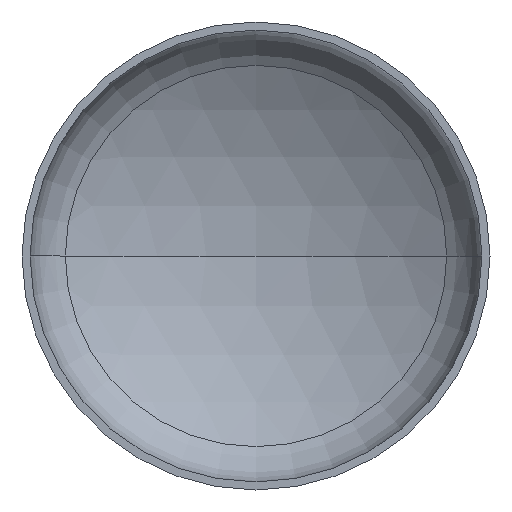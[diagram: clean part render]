
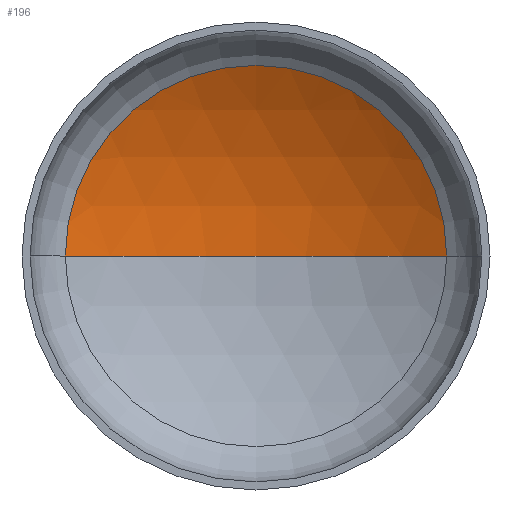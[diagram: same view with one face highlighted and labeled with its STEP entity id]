
A CAD part, front view. The second image highlights one B-rep face of the part: STEP entity #196.
In plain terms, the highlighted spherical face has radius 2400 mm.
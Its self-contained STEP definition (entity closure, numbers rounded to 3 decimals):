
#15 = EDGE_LOOP ( 'NONE', ( #30, #115, #121 ) ) ;
#20 = AXIS2_PLACEMENT_3D ( 'NONE', #171, #175, #304 ) ;
#24 = AXIS2_PLACEMENT_3D ( 'NONE', #176, #346, #198 ) ;
#30 = ORIENTED_EDGE ( 'NONE', *, *, #385, .F. ) ;
#54 = VERTEX_POINT ( 'NONE', #249 ) ;
#55 = AXIS2_PLACEMENT_3D ( 'NONE', #212, #194, #265 ) ;
#63 = VERTEX_POINT ( 'NONE', #281 ) ;
#115 = ORIENTED_EDGE ( 'NONE', *, *, #345, .T. ) ;
#116 = VERTEX_POINT ( 'NONE', #308 ) ;
#121 = ORIENTED_EDGE ( 'NONE', *, *, #341, .T. ) ;
#145 = SPHERICAL_SURFACE ( 'NONE', #55, 2400. ) ;
#171 = CARTESIAN_POINT ( 'NONE',  ( 0., -1549.568, 0. ) ) ;
#175 = DIRECTION ( 'NONE',  ( 0., 0., -1. ) ) ;
#176 = CARTESIAN_POINT ( 'NONE',  ( 0., 515.877, 0. ) ) ;
#177 = CIRCLE ( 'NONE', #20, 2400. ) ;
#194 = DIRECTION ( 'NONE',  ( 0., 0., -1. ) ) ;
#196 = ADVANCED_FACE ( 'NONE', ( #264 ), #145, .F. ) ;
#198 = DIRECTION ( 'NONE',  ( 1., 0., 0. ) ) ;
#212 = CARTESIAN_POINT ( 'NONE',  ( 0., -1549.568, 0. ) ) ;
#231 = DIRECTION ( 'NONE',  ( 1., 0., 0. ) ) ;
#244 = CIRCLE ( 'NONE', #24, 1222.268 ) ;
#249 = CARTESIAN_POINT ( 'NONE',  ( 0., 850.432, 0. ) ) ;
#263 = AXIS2_PLACEMENT_3D ( 'NONE', #272, #375, #231 ) ;
#264 = FACE_OUTER_BOUND ( 'NONE', #15, .T. ) ;
#265 = DIRECTION ( 'NONE',  ( -1., 0., 0. ) ) ;
#272 = CARTESIAN_POINT ( 'NONE',  ( 0., -1549.568, 0. ) ) ;
#281 = CARTESIAN_POINT ( 'NONE',  ( -1222.268, 515.877, 0. ) ) ;
#304 = DIRECTION ( 'NONE',  ( -1., 0., 0. ) ) ;
#308 = CARTESIAN_POINT ( 'NONE',  ( 1222.268, 515.877, 0. ) ) ;
#341 = EDGE_CURVE ( 'NONE', #116, #63, #244, .T. ) ;
#345 = EDGE_CURVE ( 'NONE', #54, #116, #177, .T. ) ;
#346 = DIRECTION ( 'NONE',  ( 0., -1., 0. ) ) ;
#375 = DIRECTION ( 'NONE',  ( 0., 0., 1. ) ) ;
#385 = EDGE_CURVE ( 'NONE', #54, #63, #403, .T. ) ;
#403 = CIRCLE ( 'NONE', #263, 2400. ) ;
